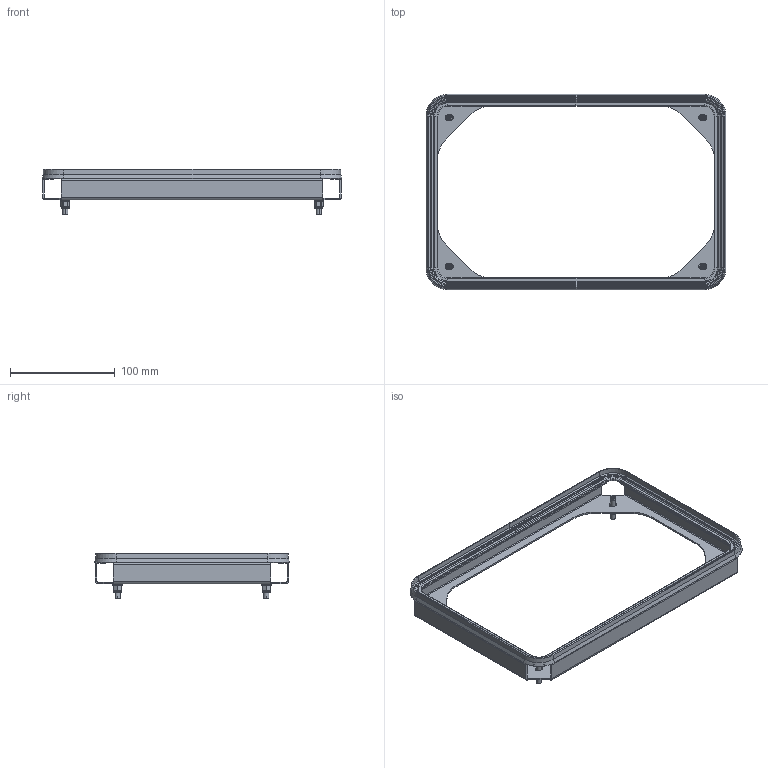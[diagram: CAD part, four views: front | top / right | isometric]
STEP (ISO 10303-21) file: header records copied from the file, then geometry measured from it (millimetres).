
FILE_DESCRIPTION (( 'STEP AP214' ), '1' );
FILE_NAME ('100-413-01 M810 Panel Mount Kit Asm.STEP', '2024-10-25T08:09:58', ( '' ), ( '' ), 'SwSTEP 2.0', 'SolidWorks 2022', '' );
FILE_SCHEMA (( 'AUTOMOTIVE_DESIGN' ));
Length unit declared in the file: millimetre
Products named in the file (6): 017-245 M5x25mm Thread Lock Socket Set Screw_M5X25mm; 017-243 M5 Hexagon Nylon Insert Thin Nut_Standard: DIN 982 ~ISO 7040 TR00000396-100; 017-258 - M5 S-S Anti-Vibration Lock Washer^100-413-01 M810 Panel Mount Kit Asm(2)_100-413-01 M810 Panel Mount Kit Asm; 100-413-01 M810 Panel Mount Kit Asm; 020-1120-01_M81X Panel Gasket; 025-1023-01_M81X Panel Mount
Assembly tree (14 placements, depth 2):
  100-413-01 M810 Panel Mount Kit Asm
    025-1023-01_M81X Panel Mount
    017-245 M5x25mm Thread Lock Socket Set Screw_M5X25mm  x4
    017-243 M5 Hexagon Nylon Insert Thin Nut_Standard: DIN 982 ~ISO 7040 TR00000396-100  x4
    017-258 - M5 S-S Anti-Vibration Lock Washer^100-413-01 M810 Panel Mount Kit Asm(2)_100-413-01 M810 Panel Mount Kit Asm  x4
    020-1120-01_M81X Panel Gasket
Bounding box: 286.34 x 186.34 x 43.91 mm (x, y, z)
Volume: 79652.4 mm3; surface area: 109604.3 mm2
Topology: 22 solids, 22 shells, 769 faces, 1693 edges, 966 vertices
Faces by surface type: plane 353, cylinder 228, cone 120, torus 68
Entity records: 14445 total; most frequent: CARTESIAN_POINT 2729, DIRECTION 2503, ORIENTED_EDGE 2244, EDGE_CURVE 1122, AXIS2_PLACEMENT_3D 914, VECTOR 675, LINE 675, VERTEX_POINT 630
